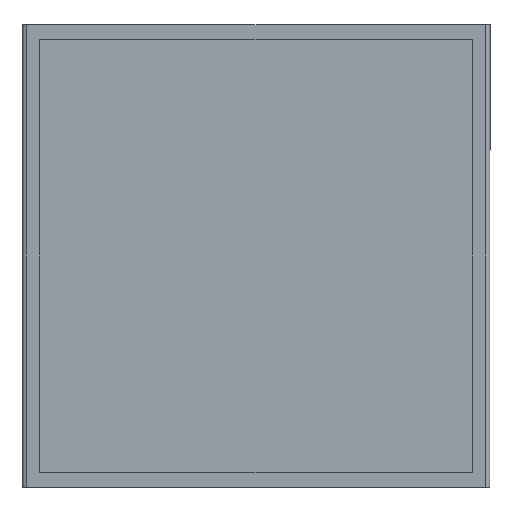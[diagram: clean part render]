
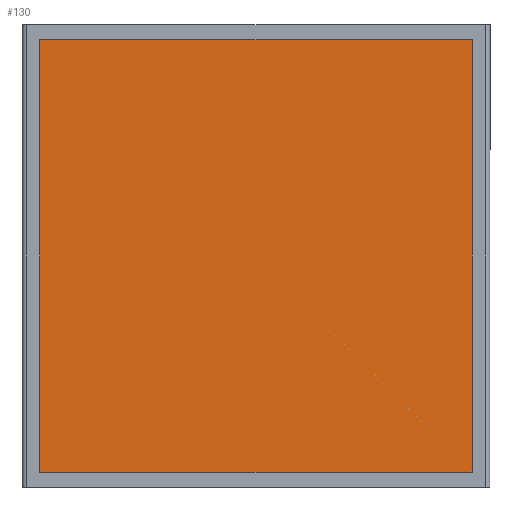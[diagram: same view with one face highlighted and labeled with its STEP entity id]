
A CAD part, front view. The second image highlights one B-rep face of the part: STEP entity #130.
In plain terms, the highlighted planar face has unit normal (0, -1, 0).
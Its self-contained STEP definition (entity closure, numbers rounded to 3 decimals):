
#130 = ADVANCED_FACE ( 'NONE', ( #2112 ), #4886, .T. ) ;
#376 = VECTOR ( 'NONE', #528, 1000. ) ;
#404 = DIRECTION ( 'NONE',  ( 1., 0., 0. ) ) ;
#528 = DIRECTION ( 'NONE',  ( 0., 0., -1. ) ) ;
#619 = VERTEX_POINT ( 'NONE', #4217 ) ;
#760 = CARTESIAN_POINT ( 'NONE',  ( -6.395, -7.836, -8.193 ) ) ;
#1037 = ORIENTED_EDGE ( 'NONE', *, *, #2707, .T. ) ;
#1102 = CARTESIAN_POINT ( 'NONE',  ( 15.605, -7.836, -8.193 ) ) ;
#1196 = ORIENTED_EDGE ( 'NONE', *, *, #3465, .T. ) ;
#1297 = VERTEX_POINT ( 'NONE', #2246 ) ;
#1370 = EDGE_CURVE ( 'NONE', #5013, #2785, #4765, .T. ) ;
#1375 = DIRECTION ( 'NONE',  ( 0., -1., 0. ) ) ;
#1576 = CARTESIAN_POINT ( 'NONE',  ( -6.395, -7.836, 13.807 ) ) ;
#1647 = VECTOR ( 'NONE', #404, 1000. ) ;
#1727 = EDGE_CURVE ( 'NONE', #619, #1297, #4468, .T. ) ;
#1752 = DIRECTION ( 'NONE',  ( 0., 0., 1. ) ) ;
#1955 = VECTOR ( 'NONE', #4264, 1000. ) ;
#2064 = EDGE_LOOP ( 'NONE', ( #2175, #1196, #5005, #1037 ) ) ;
#2112 = FACE_OUTER_BOUND ( 'NONE', #2064, .T. ) ;
#2141 = DIRECTION ( 'NONE',  ( 0., 0., 1. ) ) ;
#2149 = AXIS2_PLACEMENT_3D ( 'NONE', #2169, #1375, #2141 ) ;
#2169 = CARTESIAN_POINT ( 'NONE',  ( 15.605, -7.836, 13.807 ) ) ;
#2175 = ORIENTED_EDGE ( 'NONE', *, *, #1727, .T. ) ;
#2246 = CARTESIAN_POINT ( 'NONE',  ( 15.605, -7.836, 13.807 ) ) ;
#2707 = EDGE_CURVE ( 'NONE', #2785, #619, #3106, .T. ) ;
#2785 = VERTEX_POINT ( 'NONE', #760 ) ;
#3106 = LINE ( 'NONE', #1102, #1647 ) ;
#3465 = EDGE_CURVE ( 'NONE', #1297, #5013, #4575, .T. ) ;
#3841 = CARTESIAN_POINT ( 'NONE',  ( 15.605, -7.836, 13.807 ) ) ;
#4034 = CARTESIAN_POINT ( 'NONE',  ( 15.605, -7.836, -8.193 ) ) ;
#4105 = VECTOR ( 'NONE', #1752, 1000. ) ;
#4217 = CARTESIAN_POINT ( 'NONE',  ( 15.605, -7.836, -8.193 ) ) ;
#4264 = DIRECTION ( 'NONE',  ( -1., 0., 0. ) ) ;
#4334 = CARTESIAN_POINT ( 'NONE',  ( -6.395, -7.836, -8.193 ) ) ;
#4468 = LINE ( 'NONE', #4034, #4105 ) ;
#4575 = LINE ( 'NONE', #3841, #1955 ) ;
#4765 = LINE ( 'NONE', #4334, #376 ) ;
#4886 = PLANE ( 'NONE',  #2149 ) ;
#5005 = ORIENTED_EDGE ( 'NONE', *, *, #1370, .T. ) ;
#5013 = VERTEX_POINT ( 'NONE', #1576 ) ;
